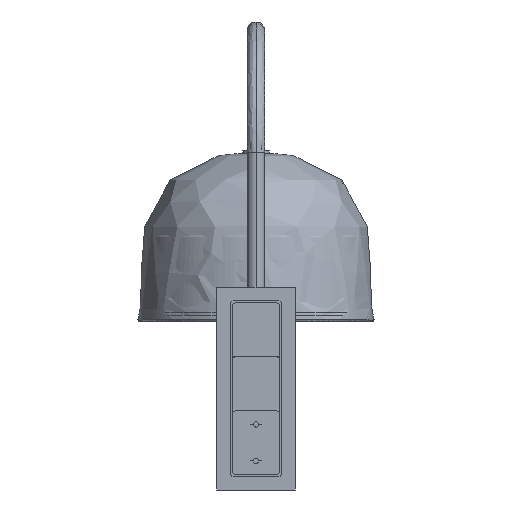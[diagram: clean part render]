
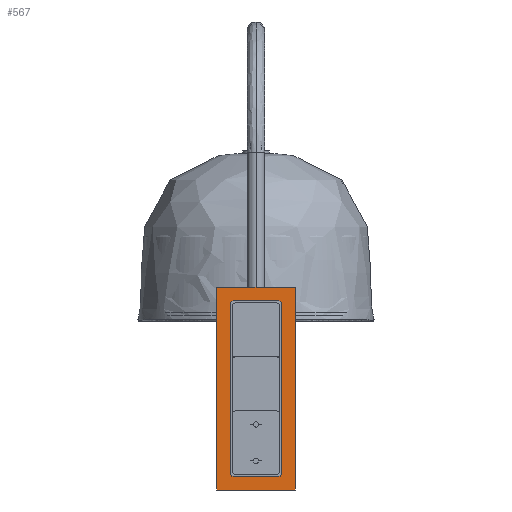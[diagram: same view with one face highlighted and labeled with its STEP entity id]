
A CAD part, left-side view. The second image highlights one B-rep face of the part: STEP entity #567.
In plain terms, the highlighted free-form (B-spline) face has degree [2, 1] with [3, 2] control points.
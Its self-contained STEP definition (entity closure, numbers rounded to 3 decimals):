
#109=B_SPLINE_CURVE_WITH_KNOTS('',1,(#10188,#10189),.UNSPECIFIED.,.F.,.F.,
(2,2),(42.894,168.894),.UNSPECIFIED.);
#110=B_SPLINE_CURVE_WITH_KNOTS('',1,(#10190,#10191),.UNSPECIFIED.,.F.,.F.,
(2,2),(-163.106,-129.106),.UNSPECIFIED.);
#111=B_SPLINE_CURVE_WITH_KNOTS('',1,(#10192,#10193),.UNSPECIFIED.,.F.,.F.,
(2,2),(-125.106,0.894),.UNSPECIFIED.);
#112=B_SPLINE_CURVE_WITH_KNOTS('',1,(#10194,#10195),.UNSPECIFIED.,.F.,.F.,
(2,2),(4.894,38.894),.UNSPECIFIED.);
#255=FACE_BOUND('',#1171,.T.);
#567=ADVANCED_FACE('',(#858,#255),#4254,.T.);
#858=FACE_OUTER_BOUND('',#1170,.T.);
#1170=EDGE_LOOP('',(#1921,#1922,#1923,#1924));
#1171=EDGE_LOOP('',(#1925,#1926,#1927,#1928,#1929,#1930,#1931,#1932));
#1921=ORIENTED_EDGE('',*,*,#2957,.T.);
#1922=ORIENTED_EDGE('',*,*,#2950,.T.);
#1923=ORIENTED_EDGE('',*,*,#2958,.F.);
#1924=ORIENTED_EDGE('',*,*,#2955,.F.);
#1925=ORIENTED_EDGE('',*,*,#2979,.T.);
#1926=ORIENTED_EDGE('',*,*,#2973,.T.);
#1927=ORIENTED_EDGE('',*,*,#2980,.T.);
#1928=ORIENTED_EDGE('',*,*,#2971,.T.);
#1929=ORIENTED_EDGE('',*,*,#2981,.T.);
#1930=ORIENTED_EDGE('',*,*,#2975,.T.);
#1931=ORIENTED_EDGE('',*,*,#2982,.T.);
#1932=ORIENTED_EDGE('',*,*,#2977,.T.);
#2950=EDGE_CURVE('',#3944,#3947,#3521,.T.);
#2955=EDGE_CURVE('',#3950,#3951,#3526,.T.);
#2957=EDGE_CURVE('',#3950,#3944,#3528,.T.);
#2958=EDGE_CURVE('',#3951,#3947,#3529,.T.);
#2971=EDGE_CURVE('',#3963,#3964,#3530,.T.);
#2973=EDGE_CURVE('',#3961,#3962,#3532,.T.);
#2975=EDGE_CURVE('',#3965,#3966,#3534,.T.);
#2977=EDGE_CURVE('',#3967,#3960,#3536,.T.);
#2979=EDGE_CURVE('',#3960,#3961,#109,.T.);
#2980=EDGE_CURVE('',#3962,#3963,#110,.T.);
#2981=EDGE_CURVE('',#3964,#3965,#111,.T.);
#2982=EDGE_CURVE('',#3966,#3967,#112,.T.);
#3521=(
BOUNDED_CURVE()
B_SPLINE_CURVE(1,(#10112,#10113),.UNSPECIFIED.,.F.,.F.)
B_SPLINE_CURVE_WITH_KNOTS((2,2),(0.,150.),.UNSPECIFIED.)
CURVE()
GEOMETRIC_REPRESENTATION_ITEM()
RATIONAL_B_SPLINE_CURVE((1.,1.))
REPRESENTATION_ITEM('')
);
#3526=(
BOUNDED_CURVE()
B_SPLINE_CURVE(1,(#10129,#10130),.UNSPECIFIED.,.F.,.F.)
B_SPLINE_CURVE_WITH_KNOTS((2,2),(0.,150.),.UNSPECIFIED.)
CURVE()
GEOMETRIC_REPRESENTATION_ITEM()
RATIONAL_B_SPLINE_CURVE((1.,1.))
REPRESENTATION_ITEM('')
);
#3528=(
BOUNDED_CURVE()
B_SPLINE_CURVE(2,(#10134,#10135,#10136),.UNSPECIFIED.,.F.,.F.)
B_SPLINE_CURVE_WITH_KNOTS((3,3),(-175.106,-117.106),
 .UNSPECIFIED.)
CURVE()
GEOMETRIC_REPRESENTATION_ITEM()
RATIONAL_B_SPLINE_CURVE((1.,1.,1.))
REPRESENTATION_ITEM('')
);
#3529=(
BOUNDED_CURVE()
B_SPLINE_CURVE(2,(#10137,#10138,#10139),.UNSPECIFIED.,.F.,.F.)
B_SPLINE_CURVE_WITH_KNOTS((3,3),(-175.106,-117.106),
 .UNSPECIFIED.)
CURVE()
GEOMETRIC_REPRESENTATION_ITEM()
RATIONAL_B_SPLINE_CURVE((1.,1.,1.))
REPRESENTATION_ITEM('')
);
#3530=(
BOUNDED_CURVE()
B_SPLINE_CURVE(2,(#10164,#10165,#10166),.UNSPECIFIED.,.F.,.F.)
B_SPLINE_CURVE_WITH_KNOTS((3,3),(0.,3.142),.UNSPECIFIED.)
CURVE()
GEOMETRIC_REPRESENTATION_ITEM()
RATIONAL_B_SPLINE_CURVE((1.,0.707,1.))
REPRESENTATION_ITEM('')
);
#3532=(
BOUNDED_CURVE()
B_SPLINE_CURVE(2,(#10170,#10171,#10172),.UNSPECIFIED.,.F.,.F.)
B_SPLINE_CURVE_WITH_KNOTS((3,3),(-3.142,0.),.UNSPECIFIED.)
CURVE()
GEOMETRIC_REPRESENTATION_ITEM()
RATIONAL_B_SPLINE_CURVE((1.,0.707,1.))
REPRESENTATION_ITEM('')
);
#3534=(
BOUNDED_CURVE()
B_SPLINE_CURVE(2,(#10176,#10177,#10178),.UNSPECIFIED.,.F.,.F.)
B_SPLINE_CURVE_WITH_KNOTS((3,3),(0.,3.142),.UNSPECIFIED.)
CURVE()
GEOMETRIC_REPRESENTATION_ITEM()
RATIONAL_B_SPLINE_CURVE((1.,0.707,1.))
REPRESENTATION_ITEM('')
);
#3536=(
BOUNDED_CURVE()
B_SPLINE_CURVE(2,(#10182,#10183,#10184),.UNSPECIFIED.,.F.,.F.)
B_SPLINE_CURVE_WITH_KNOTS((3,3),(0.,3.142),.UNSPECIFIED.)
CURVE()
GEOMETRIC_REPRESENTATION_ITEM()
RATIONAL_B_SPLINE_CURVE((1.,0.707,1.))
REPRESENTATION_ITEM('')
);
#3944=VERTEX_POINT('',#10072);
#3947=VERTEX_POINT('',#10075);
#3950=VERTEX_POINT('',#10078);
#3951=VERTEX_POINT('',#10079);
#3960=VERTEX_POINT('',#10088);
#3961=VERTEX_POINT('',#10089);
#3962=VERTEX_POINT('',#10090);
#3963=VERTEX_POINT('',#10091);
#3964=VERTEX_POINT('',#10092);
#3965=VERTEX_POINT('',#10093);
#3966=VERTEX_POINT('',#10094);
#3967=VERTEX_POINT('',#10095);
#4254=(
BOUNDED_SURFACE()
B_SPLINE_SURFACE(2,1,((#9995,#9996),(#9997,#9998),(#9999,#10000)),
 .UNSPECIFIED.,.F.,.F.,.F.)
B_SPLINE_SURFACE_WITH_KNOTS((3,3),(2,2),(-175.106,-117.106),
(0.,150.),.UNSPECIFIED.)
GEOMETRIC_REPRESENTATION_ITEM()
RATIONAL_B_SPLINE_SURFACE(((1.,1.),(1.,1.),(1.,1.)))
REPRESENTATION_ITEM('')
SURFACE()
);
#9995=CARTESIAN_POINT('',(-1009.139,-923.502,128.506));
#9996=CARTESIAN_POINT('',(-1009.139,-923.502,-21.494));
#9997=CARTESIAN_POINT('',(-1009.139,-894.502,128.506));
#9998=CARTESIAN_POINT('',(-1009.139,-894.502,-21.494));
#9999=CARTESIAN_POINT('',(-1009.139,-865.502,128.506));
#10000=CARTESIAN_POINT('',(-1009.139,-865.502,-21.494));
#10072=CARTESIAN_POINT('',(-1009.139,-865.502,128.506));
#10075=CARTESIAN_POINT('',(-1009.139,-865.502,-21.494));
#10078=CARTESIAN_POINT('',(-1009.139,-923.502,128.506));
#10079=CARTESIAN_POINT('',(-1009.139,-923.502,-21.494));
#10088=CARTESIAN_POINT('',(-1009.139,-913.502,116.506));
#10089=CARTESIAN_POINT('',(-1009.139,-913.502,-9.494));
#10090=CARTESIAN_POINT('',(-1009.139,-911.502,-11.494));
#10091=CARTESIAN_POINT('',(-1009.139,-877.502,-11.494));
#10092=CARTESIAN_POINT('',(-1009.139,-875.502,-9.494));
#10093=CARTESIAN_POINT('',(-1009.139,-875.502,116.506));
#10094=CARTESIAN_POINT('',(-1009.139,-877.502,118.506));
#10095=CARTESIAN_POINT('',(-1009.139,-911.502,118.506));
#10112=CARTESIAN_POINT('',(-1009.139,-865.502,128.506));
#10113=CARTESIAN_POINT('',(-1009.139,-865.502,-21.494));
#10129=CARTESIAN_POINT('',(-1009.139,-923.502,128.506));
#10130=CARTESIAN_POINT('',(-1009.139,-923.502,-21.494));
#10134=CARTESIAN_POINT('',(-1009.139,-923.502,128.506));
#10135=CARTESIAN_POINT('',(-1009.139,-894.502,128.506));
#10136=CARTESIAN_POINT('',(-1009.139,-865.502,128.506));
#10137=CARTESIAN_POINT('',(-1009.139,-923.502,-21.494));
#10138=CARTESIAN_POINT('',(-1009.139,-894.502,-21.494));
#10139=CARTESIAN_POINT('',(-1009.139,-865.502,-21.494));
#10164=CARTESIAN_POINT('',(-1009.139,-877.502,-11.494));
#10165=CARTESIAN_POINT('',(-1009.139,-875.502,-11.494));
#10166=CARTESIAN_POINT('',(-1009.139,-875.502,-9.494));
#10170=CARTESIAN_POINT('',(-1009.139,-913.502,-9.494));
#10171=CARTESIAN_POINT('',(-1009.139,-913.502,-11.494));
#10172=CARTESIAN_POINT('',(-1009.139,-911.502,-11.494));
#10176=CARTESIAN_POINT('',(-1009.139,-875.502,116.506));
#10177=CARTESIAN_POINT('',(-1009.139,-875.502,118.506));
#10178=CARTESIAN_POINT('',(-1009.139,-877.502,118.506));
#10182=CARTESIAN_POINT('',(-1009.139,-911.502,118.506));
#10183=CARTESIAN_POINT('',(-1009.139,-913.502,118.506));
#10184=CARTESIAN_POINT('',(-1009.139,-913.502,116.506));
#10188=CARTESIAN_POINT('',(-1009.139,-913.502,116.506));
#10189=CARTESIAN_POINT('',(-1009.139,-913.502,-9.494));
#10190=CARTESIAN_POINT('',(-1009.139,-911.502,-11.494));
#10191=CARTESIAN_POINT('',(-1009.139,-877.502,-11.494));
#10192=CARTESIAN_POINT('',(-1009.139,-875.502,-9.494));
#10193=CARTESIAN_POINT('',(-1009.139,-875.502,116.506));
#10194=CARTESIAN_POINT('',(-1009.139,-877.502,118.506));
#10195=CARTESIAN_POINT('',(-1009.139,-911.502,118.506));
